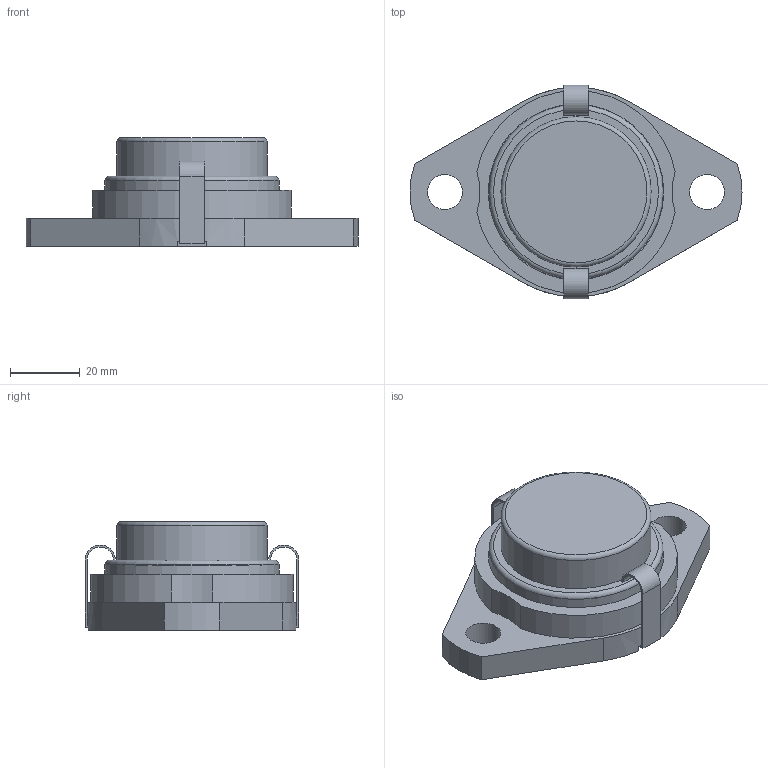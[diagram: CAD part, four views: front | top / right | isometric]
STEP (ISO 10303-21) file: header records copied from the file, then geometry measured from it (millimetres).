
FILE_DESCRIPTION((''),'2;1');
FILE_NAME('\\Ts-tgl068\j-cad-d-base\00.3DCADデータ作成フォルダ\11.エコシリーズ\MUSFL000\MUSFL005E.stp','2014-11-12T09:52:20',('btec_1106_2'),(''),'Autodesk Inventor 2012','Autodesk Inventor 2012','');
FILE_SCHEMA(('AUTOMOTIVE_DESIGN { 1 0 10303 214 1 1 1 1 }'));
Length unit declared in the file: millimetre
Products named in the file (5): MUSFL000C(E); SFL005; U005; 05-6CPE; 4-5CLL
Assembly tree (5 placements, depth 2):
  MUSFL000C(E)
    SFL005
    U005
    05-6CPE
    4-5CLL  x2
Bounding box: 95 x 61.2 x 31.1 mm (x, y, z)
Volume: 44448.1 mm3; surface area: 27994.5 mm2
Topology: 5 solids, 5 shells, 108 faces, 255 edges, 165 vertices
Faces by surface type: plane 60, cylinder 39, torus 4, cone 3, sphere 2
Full cylindrical faces by diameter (mm): 3.5 x1, 10 x2, 25 x1, 31.7 x1, 36 x1, 42.4 x1, 43 x1, 49.2 x1, 49.8 x1, 50.2 x1
Entity records: 2965 total; most frequent: CARTESIAN_POINT 594, DIRECTION 498, ORIENTED_EDGE 410, EDGE_CURVE 205, AXIS2_PLACEMENT_3D 192, VERTEX_POINT 145, EDGE_LOOP 138, VECTOR 114
